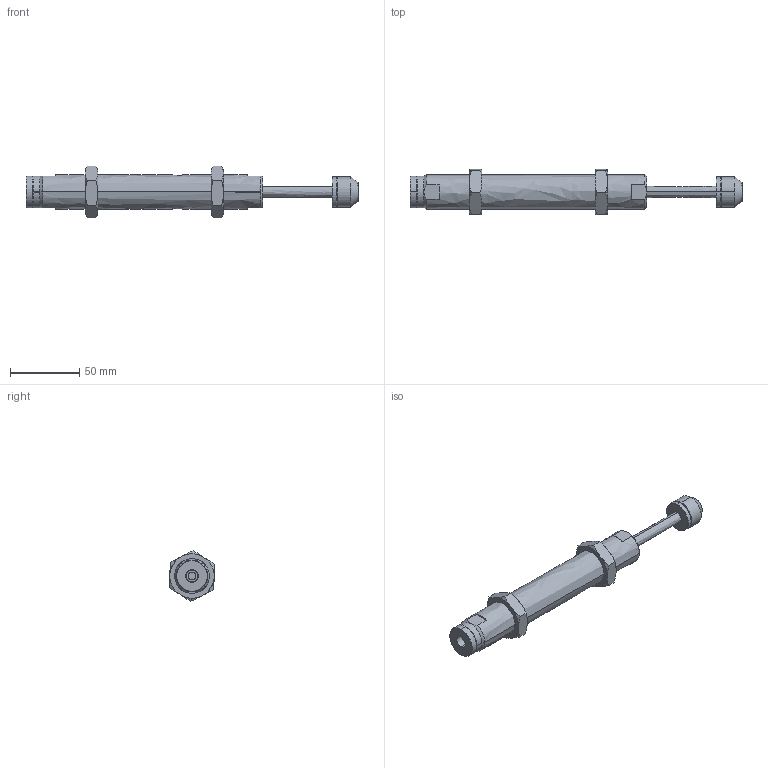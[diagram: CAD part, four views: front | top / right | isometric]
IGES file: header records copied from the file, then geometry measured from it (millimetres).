
Start section: SolidWorks IGES file using analytic representation for surfaces
Global section: file name: D:\IGS跡宒\AC2550(QY)(P2.0)-SH.IGS,1; native system: 5HSolidWorks 2013; preprocessor: SolidWorks 2013; author: Administrator; date: 160412.105956; units: inch
Bounding box: 239.2 x 32.71 x 36.92 mm (x, y, z)
Surface area: 23318.2 mm2 (no closed solid volume)
Topology: 0 solids, 0 shells, 119 faces, 1750 edges, 1750 vertices
Faces by surface type: revolution 85, bspline 34
